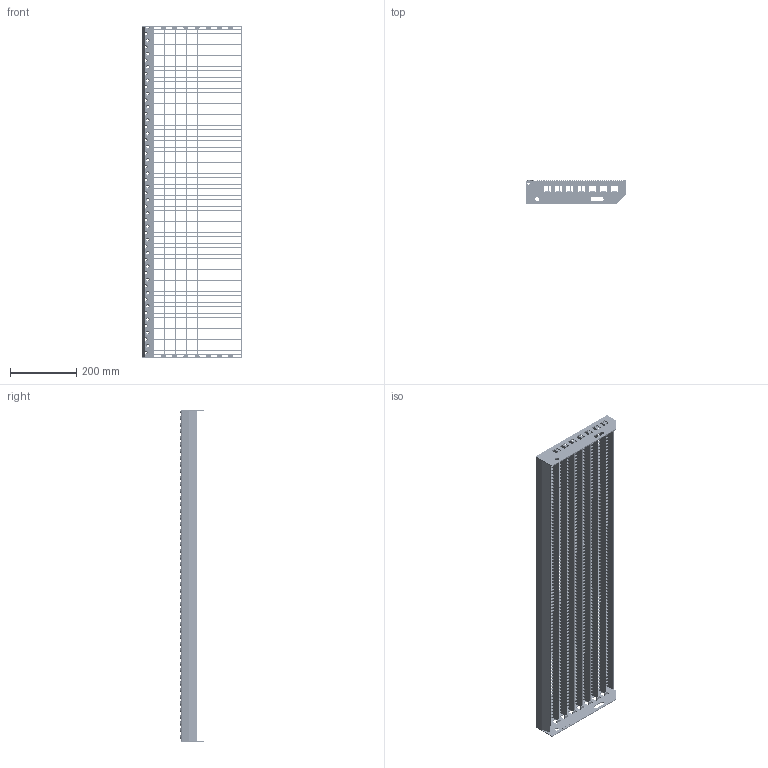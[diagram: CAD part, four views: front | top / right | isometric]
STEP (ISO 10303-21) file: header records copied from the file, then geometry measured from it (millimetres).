
FILE_DESCRIPTION(/* description */ ('','CAx-IF Rec.Pracs.---Representation and Presentation of Product Manufacturing Information (PMI)---3.8---2014-02-18'),/* implementation_level */ '2;1');
FILE_NAME(/* name */ 'C:\Users\phaverkotte\Desktop\Lager STEP\P-Stufen\PX42 230-33 11-2\PX42 230-33 11-2 1000mm x 305mm.stp',/* time_stamp */ '2018-03-24T11:00:45+01:00',/* author */ ('phaverkotte'),/* organization */ (''),/* preprocessor_version */ 'ST-DEVELOPER v16.13',/* originating_system */ 'Autodesk Inventor 2018',/* authorisation */ '');
FILE_SCHEMA (('AP242_MANAGED_MODEL_BASED_3D_ENGINEERING_MIM_LF { 1 0 10303 442 1 1 4 }'));
Length unit declared in the file: millimetre
Products named in the file (8): Schodišťový stupeň přím
ý lisovaný; Seitenplatte ausgeklinkt links; Seitenplatte 240 ausgeklinkt extern rechts; Schod nášlap; P Rošt schodu; Querstab; P Nosný pás; Hinteres Flach
Assembly tree (102 placements, depth 3):
  Schodišťový stupeň přím
ý lisovaný
    Seitenplatte ausgeklinkt links
    Seitenplatte 240 ausgeklinkt extern rechts
    Schod nášlap
    P Rošt schodu
      Querstab  x89
      P Nosný pás  x8
      Hinteres Flach
Bounding box: 303.64 x 72.75 x 1000 mm (x, y, z)
Volume: 1163741.9 mm3; surface area: 1322759.5 mm2
Topology: 101 solids, 101 shells, 20971 faces, 62124 edges, 41372 vertices
Faces by surface type: plane 20591, cylinder 152, cone 150, torus 50, bspline 28
Full cylindrical faces by diameter (mm): 8 x2, 13 x2
Entity records: 45190 total; most frequent: CARTESIAN_POINT 11913, ORIENTED_EDGE 6626, DIRECTION 6525, EDGE_CURVE 3313, LINE 2695, VECTOR 2695, VERTEX_POINT 2265, AXIS2_PLACEMENT_3D 1915
